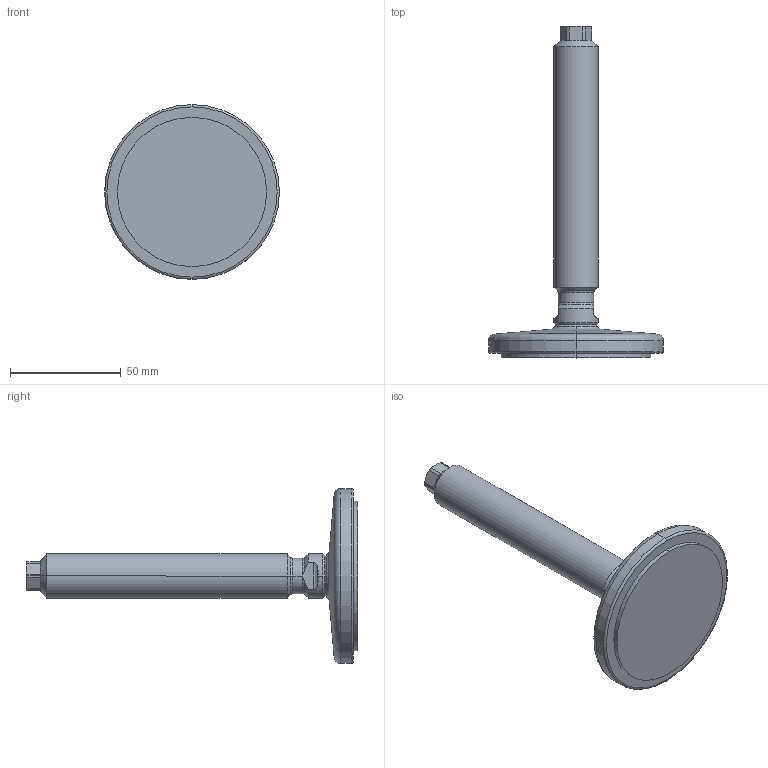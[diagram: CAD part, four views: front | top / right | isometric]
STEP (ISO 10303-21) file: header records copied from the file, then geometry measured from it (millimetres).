
FILE_DESCRIPTION (( 'STEP AP214' ), '1' );
FILE_NAME ('21-80-M20-125-D1-V.step', '2020-10-02T17:36:18', ( '' ), ( '' ), 'SwSTEP 2.0', 'SolidWorks 2019', '' );
FILE_SCHEMA (( 'AUTOMOTIVE_DESIGN' ));
Length unit declared in the file: millimetre
Products named in the file (3): WB21_Fußteller 21^WB21_V_D1-080-R12-B9 (M20); 21-80-M20-125-D1-V; WB21_Spindel_V^WB21_V_M20-125
Assembly tree (2 placements, depth 2):
  21-80-M20-125-D1-V
    WB21_Fußteller 21^WB21_V_D1-080-R12-B9 (M20)
    WB21_Spindel_V^WB21_V_M20-125
Bounding box: 79 x 150.02 x 79 mm (x, y, z)
Volume: 94532.4 mm3; surface area: 21215.9 mm2
Topology: 2 solids, 2 shells, 76 faces, 171 edges, 101 vertices
Faces by surface type: cylinder 25, plane 20, cone 17, torus 10, sphere 4
Entity records: 2387 total; most frequent: CARTESIAN_POINT 505, DIRECTION 390, ORIENTED_EDGE 342, EDGE_CURVE 171, AXIS2_PLACEMENT_3D 166, VERTEX_POINT 101, CIRCLE 85, EDGE_LOOP 78
